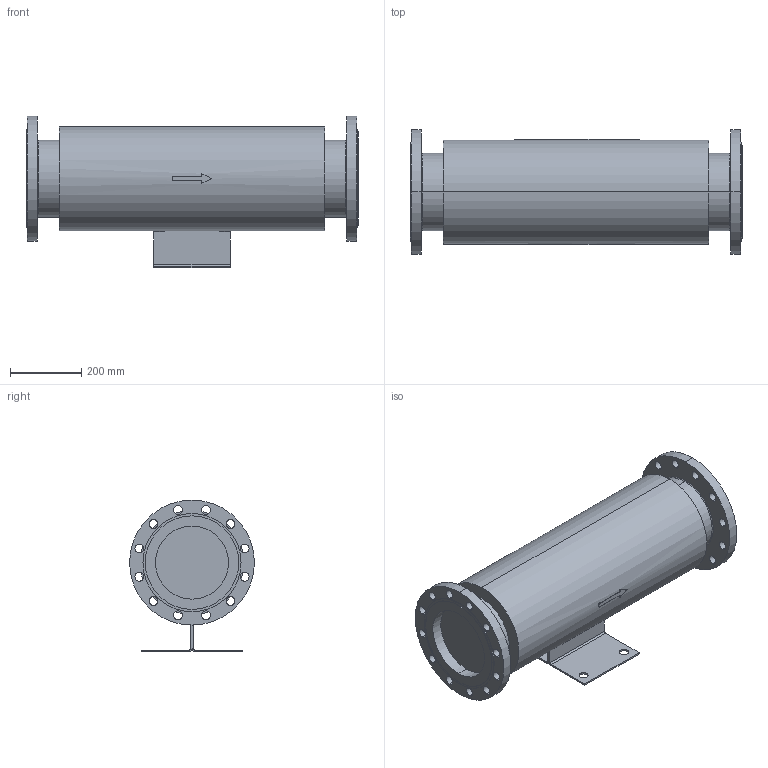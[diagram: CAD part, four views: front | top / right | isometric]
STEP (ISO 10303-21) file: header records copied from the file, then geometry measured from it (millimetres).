
FILE_DESCRIPTION( (''), '2;1');
FILE_NAME ('PC1027.9516.EB-12_200A_1862.stp','2025-07-30T09:44:00',(''),(''),'spGate 20.6.3 (****-****-****-****)','','');
FILE_SCHEMA (('AUTOMOTIVE_DESIGN'));
Length unit declared in the file: millimetre
Bounding box: 930 x 350 x 425 mm (x, y, z)
Volume: 58051666.1 mm3; surface area: 1439352.7 mm2
Topology: 1 solids, 1 shells, 132 faces, 349 edges, 232 vertices
Faces by surface type: cylinder 82, plane 46, bspline 4
Entity records: 6961 total; most frequent: CARTESIAN_POINT 839, DIRECTION 701, ORIENTED_EDGE 698, COLOUR_RGB 482, PRESENTATION_STYLE_ASSIGNMENT 482, STYLED_ITEM 482, EDGE_CURVE 349, DRAUGHTING_PRE_DEFINED_CURVE_FONT 349
